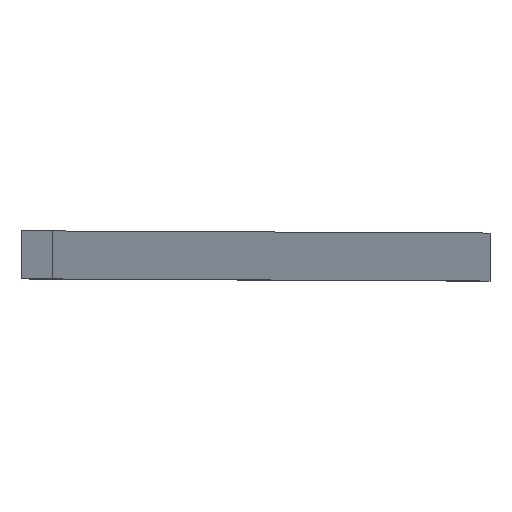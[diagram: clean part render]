
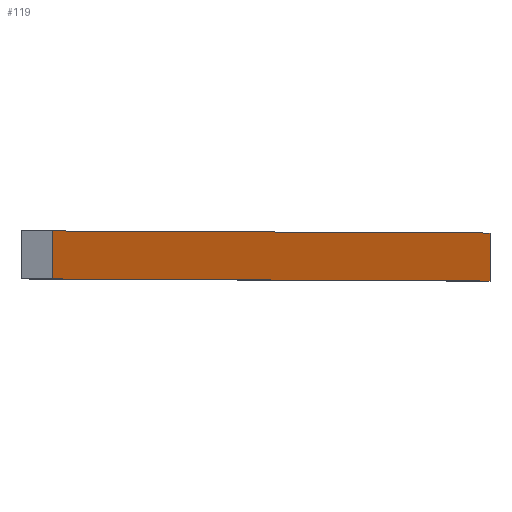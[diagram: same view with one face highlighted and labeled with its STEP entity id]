
A CAD part, top view. The second image highlights one B-rep face of the part: STEP entity #119.
In plain terms, the highlighted planar face has unit normal (0.94, 0, 0.342).
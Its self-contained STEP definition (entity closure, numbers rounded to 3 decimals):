
#21 = EDGE_CURVE('',#22,#24,#26,.T.);
#22 = VERTEX_POINT('',#23);
#23 = CARTESIAN_POINT('',(9.397,-15.,3.42));
#24 = VERTEX_POINT('',#25);
#25 = CARTESIAN_POINT('',(283.013,-15.,-748.334));
#26 = LINE('',#27,#28);
#27 = CARTESIAN_POINT('',(9.397,-15.,3.42));
#28 = VECTOR('',#29,1.);
#29 = DIRECTION('',(0.342,0.,-0.94));
#94 = VERTEX_POINT('',#95);
#95 = CARTESIAN_POINT('',(283.013,15.,-748.334));
#101 = EDGE_CURVE('',#102,#94,#104,.T.);
#102 = VERTEX_POINT('',#103);
#103 = CARTESIAN_POINT('',(9.397,15.,3.42));
#104 = LINE('',#105,#106);
#105 = CARTESIAN_POINT('',(9.397,15.,3.42));
#106 = VECTOR('',#107,1.);
#107 = DIRECTION('',(0.342,0.,-0.94));
#119 = ADVANCED_FACE('',(#120),#136,.F.);
#120 = FACE_BOUND('',#121,.F.);
#121 = EDGE_LOOP('',(#122,#123,#129,#130));
#122 = ORIENTED_EDGE('',*,*,#101,.T.);
#123 = ORIENTED_EDGE('',*,*,#124,.T.);
#124 = EDGE_CURVE('',#94,#24,#125,.T.);
#125 = LINE('',#126,#127);
#126 = CARTESIAN_POINT('',(283.013,15.,-748.334));
#127 = VECTOR('',#128,1.);
#128 = DIRECTION('',(0.,-1.,-0.));
#129 = ORIENTED_EDGE('',*,*,#21,.F.);
#130 = ORIENTED_EDGE('',*,*,#131,.F.);
#131 = EDGE_CURVE('',#102,#22,#132,.T.);
#132 = LINE('',#133,#134);
#133 = CARTESIAN_POINT('',(9.397,15.,3.42));
#134 = VECTOR('',#135,1.);
#135 = DIRECTION('',(0.,-1.,-0.));
#136 = PLANE('',#137);
#137 = AXIS2_PLACEMENT_3D('',#138,#139,#140);
#138 = CARTESIAN_POINT('',(9.397,15.,3.42));
#139 = DIRECTION('',(-0.94,0.,-0.342));
#140 = DIRECTION('',(0.,-1.,-0.));
